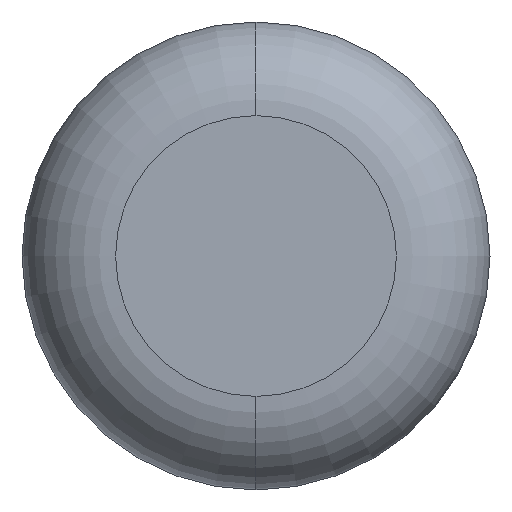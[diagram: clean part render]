
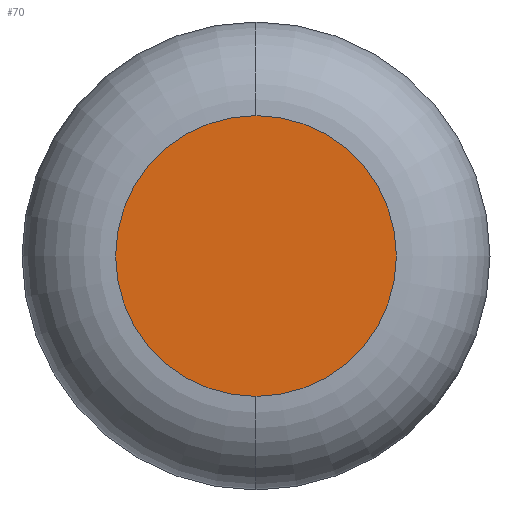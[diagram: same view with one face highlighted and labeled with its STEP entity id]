
A CAD part, left-side view. The second image highlights one B-rep face of the part: STEP entity #70.
In plain terms, the highlighted planar face has unit normal (-1, 0, 0).
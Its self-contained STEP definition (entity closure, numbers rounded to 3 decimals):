
#9 = CARTESIAN_POINT ( 'NONE',  ( 0., 0., 0. ) ) ;
#11 = EDGE_CURVE ( 'NONE', #119, #109, #181, .T. ) ;
#27 = DIRECTION ( 'NONE',  ( 0., 0., -1. ) ) ;
#38 = DIRECTION ( 'NONE',  ( -1., 0., 0. ) ) ;
#70 = ADVANCED_FACE ( 'NONE', ( #184 ), #217, .F. ) ;
#71 = ORIENTED_EDGE ( 'NONE', *, *, #11, .T. ) ;
#91 = EDGE_LOOP ( 'NONE', ( #71, #187 ) ) ;
#109 = VERTEX_POINT ( 'NONE', #223 ) ;
#115 = AXIS2_PLACEMENT_3D ( 'NONE', #9, #38, #27 ) ;
#119 = VERTEX_POINT ( 'NONE', #208 ) ;
#127 = CIRCLE ( 'NONE', #115, 3. ) ;
#141 = DIRECTION ( 'NONE',  ( 0., 0., -1. ) ) ;
#148 = AXIS2_PLACEMENT_3D ( 'NONE', #176, #233, #141 ) ;
#153 = EDGE_CURVE ( 'NONE', #109, #119, #127, .T. ) ;
#171 = CARTESIAN_POINT ( 'NONE',  ( 0., 0., 0. ) ) ;
#176 = CARTESIAN_POINT ( 'NONE',  ( 0., 0., 0. ) ) ;
#181 = CIRCLE ( 'NONE', #232, 3. ) ;
#184 = FACE_OUTER_BOUND ( 'NONE', #91, .T. ) ;
#187 = ORIENTED_EDGE ( 'NONE', *, *, #153, .T. ) ;
#206 = DIRECTION ( 'NONE',  ( -1., 0., 0. ) ) ;
#208 = CARTESIAN_POINT ( 'NONE',  ( 0., 0., -3. ) ) ;
#210 = DIRECTION ( 'NONE',  ( 0., 0., -1. ) ) ;
#217 = PLANE ( 'NONE',  #148 ) ;
#223 = CARTESIAN_POINT ( 'NONE',  ( 0., 0., 3. ) ) ;
#232 = AXIS2_PLACEMENT_3D ( 'NONE', #171, #206, #210 ) ;
#233 = DIRECTION ( 'NONE',  ( 1., 0., 0. ) ) ;
